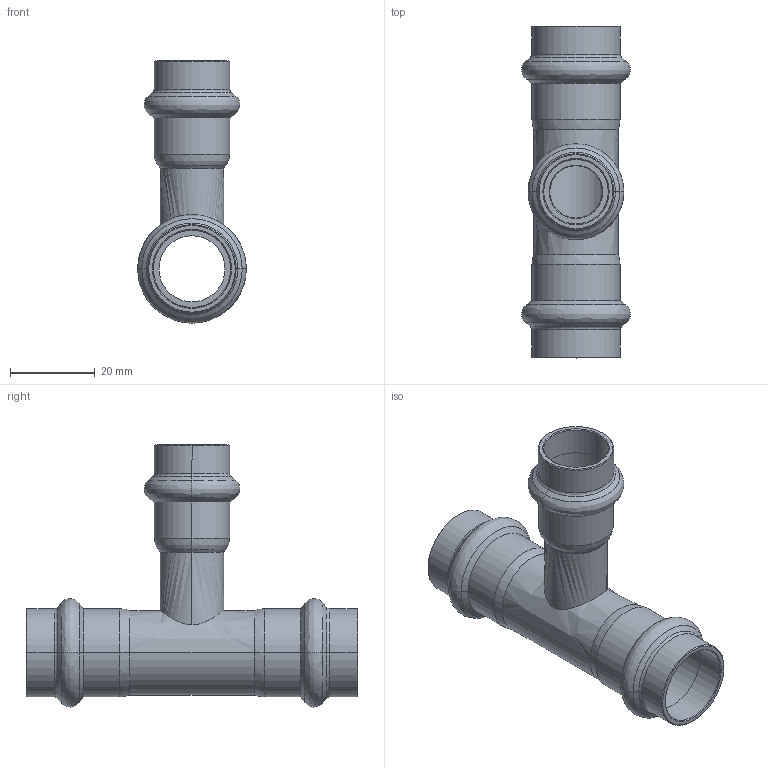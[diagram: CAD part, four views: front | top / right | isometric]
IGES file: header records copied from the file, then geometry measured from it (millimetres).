
Start section: Elysium IGES Interface
Global section: file name: C:\3d modellen sudo\C-Pr VP\SP8130RV\8130RVW181518.igs; native system: CoCreate Modeling 17.00A  17-Jun-2010; preprocessor: CoCreate IGES_3D V2.2; author: Unknown; organization: Unknown; date: 20130131.143556; units: millimetre
Bounding box: 25.7 x 78.51 x 62.03 mm (x, y, z)
Volume: 10783.1 mm3; surface area: 14324.7 mm2
Topology: 1 solids, 1 shells, 124 faces, 252 edges, 138 vertices
Faces by surface type: bspline 124
